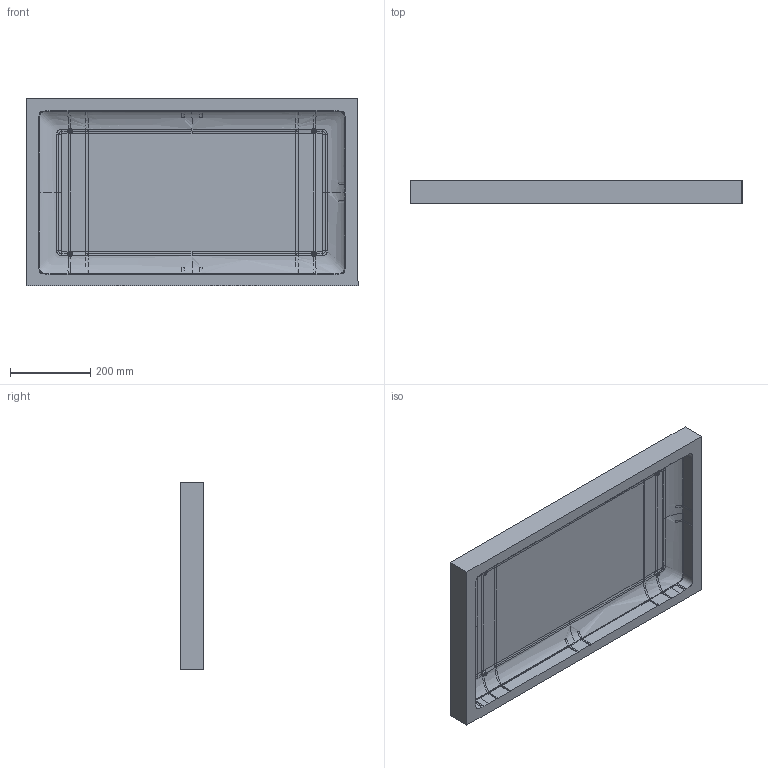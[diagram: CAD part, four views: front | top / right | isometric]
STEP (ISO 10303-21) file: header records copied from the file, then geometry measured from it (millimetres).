
FILE_DESCRIPTION (( 'STEP AP214' ), '1' );
FILE_NAME ('1615 Top Tub.STEP', '2019-02-13T21:52:33', ( '' ), ( '' ), 'SwSTEP 2.0', 'SolidWorks 2016', '' );
FILE_SCHEMA (( 'AUTOMOTIVE_DESIGN' ));
Length unit declared in the file: inch
Products named in the file (1): 1615 Top Tub
Bounding box: 827.58 x 58.8 x 467.33 mm (x, y, z)
Volume: 7300610.3 mm3; surface area: 1009208.2 mm2
Topology: 1 solids, 1 shells, 399 faces, 1048 edges, 656 vertices
Faces by surface type: bspline 208, torus 80, cylinder 48, plane 47, cone 16
Entity records: 59724 total; most frequent: CARTESIAN_POINT 51741, ORIENTED_EDGE 2096, DIRECTION 1090, EDGE_CURVE 1048, VERTEX_POINT 656, B_SPLINE_CURVE_WITH_KNOTS 590, AXIS2_PLACEMENT_3D 481, EDGE_LOOP 404
